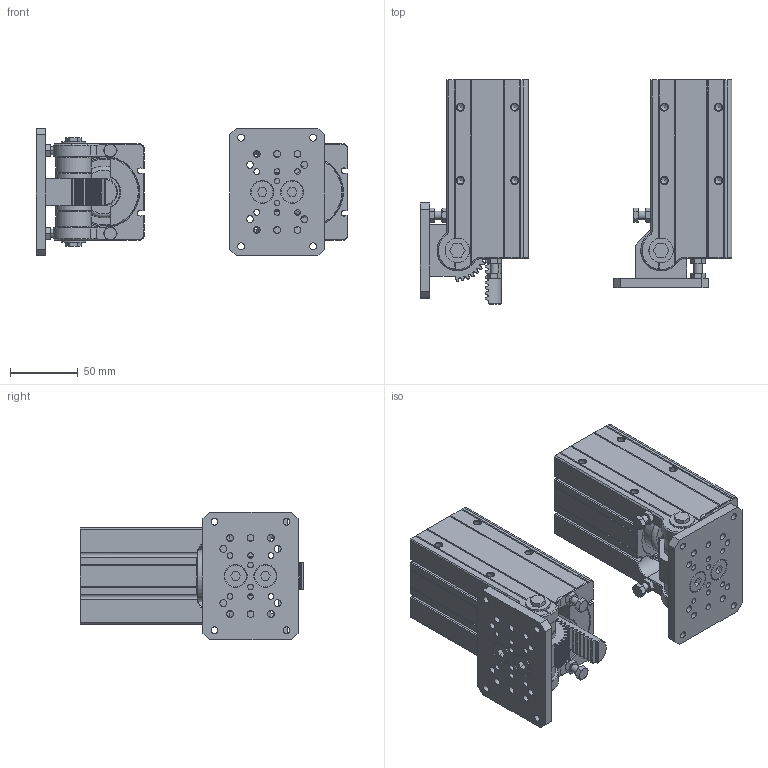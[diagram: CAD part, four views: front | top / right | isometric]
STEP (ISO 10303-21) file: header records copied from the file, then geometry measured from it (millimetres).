
FILE_DESCRIPTION(/* description */ (''),/* implementation_level */ '2;1');
FILE_NAME(/* name */ 'DHR5C-50M35ZG-ZB.stp',/* time_stamp */ '2024-08-26T13:37:31+08:00',/* author */ (''),/* organization */ (''),/* preprocessor_version */ 'ST-DEVELOPER v15',/* originating_system */ 'SIEMENS PLM Software NX 10.0',/* authorisation */ '');
FILE_SCHEMA (('AP203_CONFIGURATION_CONTROLLED_3D_DESIGN_OF_MECHANICAL_PARTS_AND_ASSEMBLIES_MIM_LF { 1 0 10303 403 2 1 2}'));
Products named in the file (1): Admi288432FFsus3
Bounding box: 229.65 x 164.88 x 94 mm (x, y, z)
Volume: 1144611 mm3; surface area: 200769.7 mm2
Topology: 6 solids, 54 shells, 3552 faces, 9848 edges, 6422 vertices
Faces by surface type: plane 2682, cylinder 454, cone 380, bspline 20, extrusion 12, torus 4
Full cylindrical faces by diameter (mm): 2.5 x10, 3 x4, 3.2 x4, 4 x4, 4.2 x16, 4.5 x4, 5 x44, 5.3 x8, 6.8 x4, 8.5 x4, 8.6 x4, 9 x4, 19 x4, 20 x4, 26 x4, 26.4 x4, 38 x4, 50 x2, 52 x2
Entity records: 114922 total; most frequent: CARTESIAN_POINT 26091, ORIENTED_EDGE 18940, DIRECTION 17080, EDGE_CURVE 9470, VECTOR 7546, LINE 7534, VERTEX_POINT 6320, AXIS2_PLACEMENT_3D 4767
